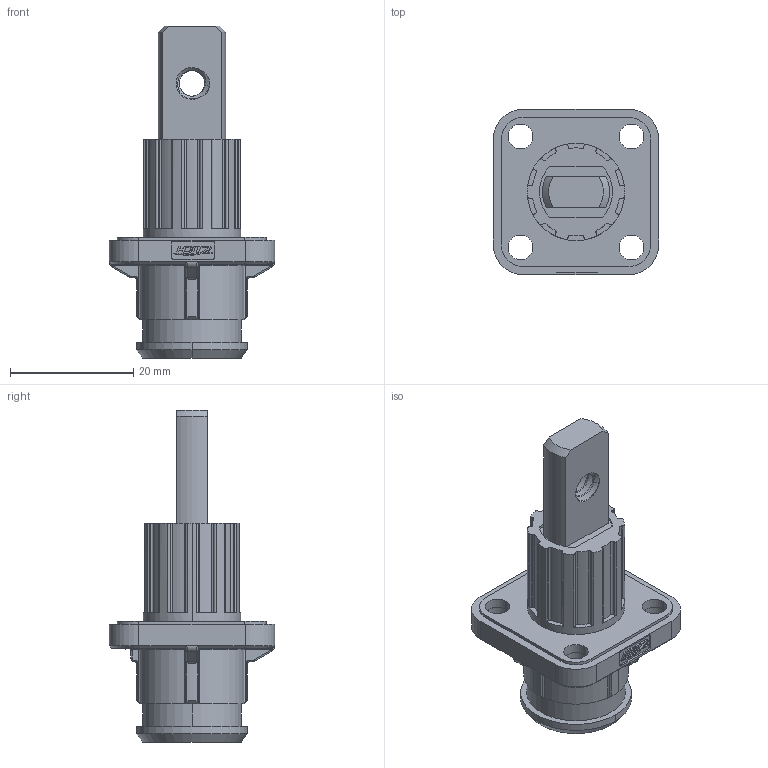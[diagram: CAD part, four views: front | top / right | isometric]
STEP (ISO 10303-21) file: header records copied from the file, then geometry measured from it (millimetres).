
FILE_DESCRIPTION((''),'2;1');
FILE_NAME('HRCT-S0157-N01','2024-05-25T17:10:11',('zc'),(''),'CREO PARAMETRIC BY PTC INC, 2018050','CREO PARAMETRIC BY PTC INC, 2018050','');
FILE_SCHEMA(('CONFIG_CONTROL_DESIGN'));
Length unit declared in the file: millimetre
Products named in the file (1): HRCT-S0157-N01
Bounding box: 26.8 x 26.8 x 53.85 mm (x, y, z)
Volume: 7699.2 mm3; surface area: 5896.3 mm2
Topology: 1 solids, 2 shells, 599 faces, 1590 edges, 1017 vertices
Faces by surface type: plane 237, cylinder 226, cone 50, bspline 46, torus 30, sphere 8, extrusion 2
Entity records: 21471 total; most frequent: CARTESIAN_POINT 6908, ORIENTED_EDGE 3176, DIRECTION 2898, EDGE_CURVE 1588, AXIS2_PLACEMENT_3D 1094, VERTEX_POINT 1017, VECTOR 710, LINE 708
